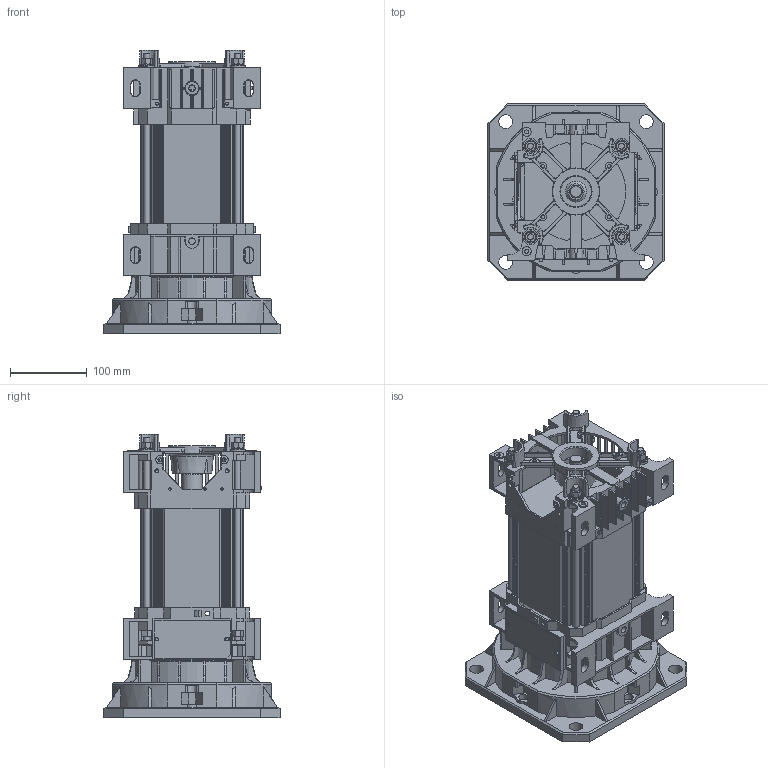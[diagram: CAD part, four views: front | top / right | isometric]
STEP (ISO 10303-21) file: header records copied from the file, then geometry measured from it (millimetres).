
FILE_DESCRIPTION(/* description */ ('Motore Tipo S36 Fl.220 F32-H140 NO Volano NO Piedi'),/* implementation_level */ '2;1');
FILE_NAME(/* name */ 'Y:\ServerTecnico\Mockup Motori x Sito Elmo\Mockup Tipo S36 Size 3 FL220 F32-H140 NO Volano.stp',/* time_stamp */ '2016-10-06T09:42:33+02:00',/* author */ ('aparmini'),/* organization */ (''),/* preprocessor_version */ 'ST-DEVELOPER v16.5',/* originating_system */ 'Autodesk Inventor 2017',/* authorisation */ '');
FILE_SCHEMA (('AUTOMOTIVE_DESIGN { 1 0 10303 214 3 1 1 }'));
Products named in the file (10): Mockup Tipo S36 Size 3 FL220 F32-H140 NO Volano; Mockup CP3XD040N; Mockup CA3SD220N; CAS3 per flangia 220 06-05-2009; CASD SEMI220 SIZE3 06-05-2009; Mockup Statore Size 3 - F32-H140 NO Volano; TGS10; TI08ML265; UNI 5587 - M8; DIN 125-2 - B 8,4
Assembly tree (22 placements, depth 3):
  Mockup Tipo S36 Size 3 FL220 F32-H140 NO Volano
    Mockup CP3XD040N
    Mockup CA3SD220N
      CAS3 per flangia 220 06-05-2009
      CASD SEMI220 SIZE3 06-05-2009
    Mockup Statore Size 3 - F32-H140 NO Volano
    TGS10
    UNI 5587 - M8  x8
    TI08ML265  x4
    DIN 125-2 - B 8,4  x4
Bounding box: 230 x 230 x 371 mm (x, y, z)
Volume: 3645866.1 mm3; surface area: 704515.8 mm2
Topology: 21 solids, 21 shells, 2100 faces, 5804 edges, 3766 vertices
Faces by surface type: plane 1147, cylinder 497, cone 356, bspline 46, torus 38, sphere 16
Full cylindrical faces by diameter (mm): 3.2 x3, 4 x8, 4.917 x4, 5 x2, 6.2 x2, 6.647 x8, 8 x4, 8.4 x4, 12 x6, 16 x4, 17 x1, 18 x4, 20 x4, 21 x1, 27.5 x1, 32 x1, 40 x2, 40.1 x1, 42.5 x1, 46 x1, 48 x1, 49.5 x1, 72 x1, 220 x1
Entity records: 63868 total; most frequent: CARTESIAN_POINT 13146, DIRECTION 10677, ORIENTED_EDGE 10572, EDGE_CURVE 5286, AXIS2_PLACEMENT_3D 3707, VERTEX_POINT 3520, LINE 3263, VECTOR 3263
